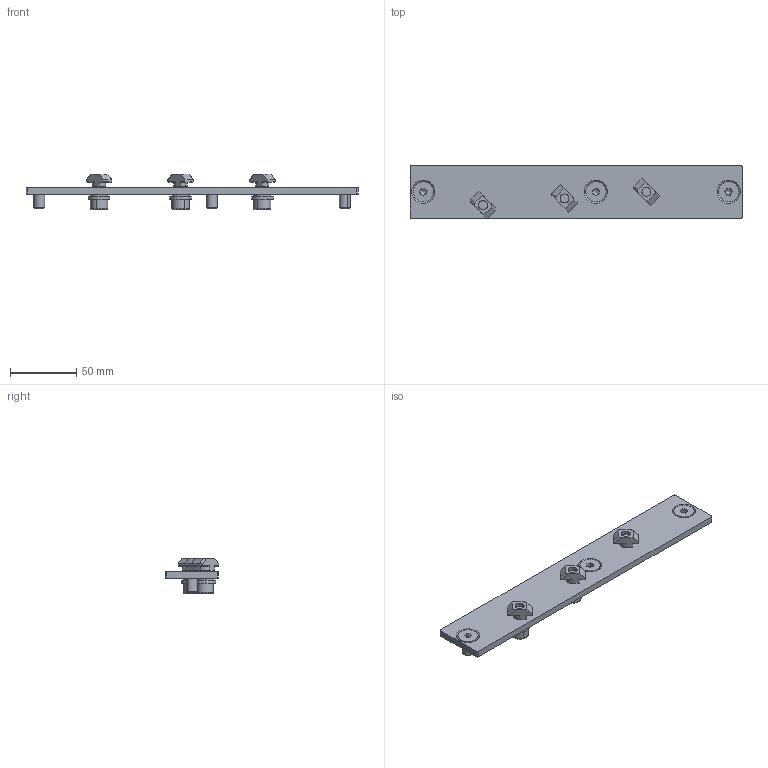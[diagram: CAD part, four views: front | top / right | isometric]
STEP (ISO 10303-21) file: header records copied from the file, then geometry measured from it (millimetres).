
FILE_DESCRIPTION (( 'STEP AP203' ), '1' );
FILE_NAME ('SPS.SSP40(R).STEP', '2015-01-22T02:09:49', ( 'USER' ), ( 'Microsoft' ), 'SwSTEP 2.0', 'SolidWorks 2012', '' );
FILE_SCHEMA (( 'CONFIG_CONTROL_DESIGN' ));
Length unit declared in the file: millimetre
Products named in the file (1): SPS.SSP40(R)
Bounding box: 250 x 40.25 x 26.7 mm (x, y, z)
Surface area: 30996.7 mm2 (no closed solid volume)
Topology: 0 solids, 22 shells, 254 faces, 753 edges, 503 vertices
Faces by surface type: plane 138, cylinder 71, cone 33, torus 12
Entity records: 8406 total; most frequent: CARTESIAN_POINT 1664, DIRECTION 1445, ORIENTED_EDGE 1245, EDGE_CURVE 741, VERTEX_POINT 503, AXIS2_PLACEMENT_3D 502, VECTOR 441, LINE 441
